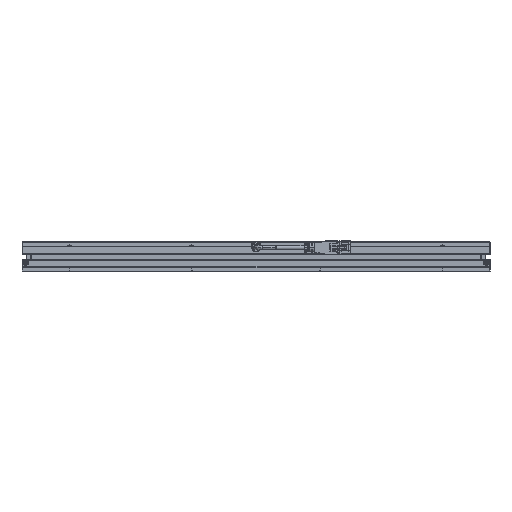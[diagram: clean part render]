
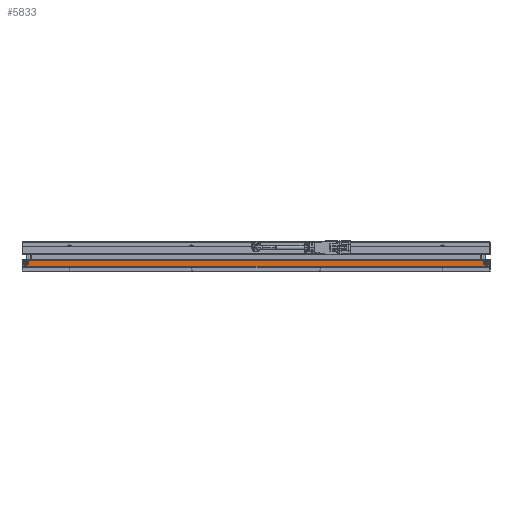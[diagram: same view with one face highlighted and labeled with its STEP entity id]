
A CAD part, left-side view. The second image highlights one B-rep face of the part: STEP entity #5833.
In plain terms, the highlighted planar face has unit normal (-1, 0, 0).
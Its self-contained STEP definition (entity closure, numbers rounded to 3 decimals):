
#37 = CIRCLE ( 'NONE', #12097, 2. ) ;
#192 = EDGE_CURVE ( 'NONE', #12142, #10848, #9920, .T. ) ;
#260 = DIRECTION ( 'NONE',  ( 0., 0., -1. ) ) ;
#303 = CARTESIAN_POINT ( 'NONE',  ( -232., -179., -12.5 ) ) ;
#338 = VERTEX_POINT ( 'NONE', #11583 ) ;
#364 = ORIENTED_EDGE ( 'NONE', *, *, #10016, .T. ) ;
#600 = FACE_OUTER_BOUND ( 'NONE', #10705, .T. ) ;
#1046 = ORIENTED_EDGE ( 'NONE', *, *, #5665, .T. ) ;
#1049 = CARTESIAN_POINT ( 'NONE',  ( -232., 179., -12.5 ) ) ;
#1095 = AXIS2_PLACEMENT_3D ( 'NONE', #8514, #2444, #9521 ) ;
#1358 = CARTESIAN_POINT ( 'NONE',  ( -232., 181.5, -9.85 ) ) ;
#1411 = VERTEX_POINT ( 'NONE', #11609 ) ;
#1552 = PLANE ( 'NONE',  #1095 ) ;
#1563 = VERTEX_POINT ( 'NONE', #3728 ) ;
#1729 = FACE_BOUND ( 'NONE', #9115, .T. ) ;
#1892 = CARTESIAN_POINT ( 'NONE',  ( -232., 181.5, -15.5 ) ) ;
#1925 = DIRECTION ( 'NONE',  ( 1., 0., 0. ) ) ;
#2444 = DIRECTION ( 'NONE',  ( 1., 0., 0. ) ) ;
#2458 = EDGE_CURVE ( 'NONE', #338, #5699, #9737, .T. ) ;
#2587 = CARTESIAN_POINT ( 'NONE',  ( -232., 182., -15.5 ) ) ;
#2630 = EDGE_CURVE ( 'NONE', #1563, #8818, #12460, .T. ) ;
#2874 = CARTESIAN_POINT ( 'NONE',  ( -232., -181.5, 0. ) ) ;
#3200 = ORIENTED_EDGE ( 'NONE', *, *, #3304, .T. ) ;
#3304 = EDGE_CURVE ( 'NONE', #10848, #8818, #5298, .T. ) ;
#3465 = CARTESIAN_POINT ( 'NONE',  ( -232., 182., -9.85 ) ) ;
#3615 = FACE_BOUND ( 'NONE', #11131, .T. ) ;
#3728 = CARTESIAN_POINT ( 'NONE',  ( -232., -181.5, -9.85 ) ) ;
#4198 = CARTESIAN_POINT ( 'NONE',  ( -232., -181.5, -15.5 ) ) ;
#4264 = CARTESIAN_POINT ( 'NONE',  ( -232., -179., -10.5 ) ) ;
#4529 = DIRECTION ( 'NONE',  ( 1., 0., 0. ) ) ;
#4594 = ORIENTED_EDGE ( 'NONE', *, *, #7394, .T. ) ;
#4659 = DIRECTION ( 'NONE',  ( 0., 0., -1. ) ) ;
#4718 = ORIENTED_EDGE ( 'NONE', *, *, #192, .T. ) ;
#5070 = DIRECTION ( 'NONE',  ( 0., 0., -1. ) ) ;
#5298 = LINE ( 'NONE', #2587, #7845 ) ;
#5547 = DIRECTION ( 'NONE',  ( 1., 0., 0. ) ) ;
#5665 = EDGE_CURVE ( 'NONE', #5699, #338, #8405, .T. ) ;
#5699 = VERTEX_POINT ( 'NONE', #4264 ) ;
#5833 = ADVANCED_FACE ( 'NONE', ( #3615, #1729, #600 ), #1552, .F. ) ;
#5871 = AXIS2_PLACEMENT_3D ( 'NONE', #1049, #1925, #5070 ) ;
#6667 = CARTESIAN_POINT ( 'NONE',  ( -232., 179., -12.5 ) ) ;
#6675 = DIRECTION ( 'NONE',  ( 0., -1., 0. ) ) ;
#6818 = DIRECTION ( 'NONE',  ( 0., 0., -1. ) ) ;
#6845 = DIRECTION ( 'NONE',  ( 0., -1., 0. ) ) ;
#7222 = VECTOR ( 'NONE', #6818, 1000. ) ;
#7255 = ORIENTED_EDGE ( 'NONE', *, *, #7701, .F. ) ;
#7394 = EDGE_CURVE ( 'NONE', #1411, #9843, #8045, .T. ) ;
#7411 = LINE ( 'NONE', #3465, #9941 ) ;
#7596 = DIRECTION ( 'NONE',  ( 0., 0., -1. ) ) ;
#7701 = EDGE_CURVE ( 'NONE', #12142, #1563, #7411, .T. ) ;
#7845 = VECTOR ( 'NONE', #6675, 1000. ) ;
#8045 = CIRCLE ( 'NONE', #5871, 2. ) ;
#8343 = DIRECTION ( 'NONE',  ( 1., 0., 0. ) ) ;
#8405 = CIRCLE ( 'NONE', #9935, 2. ) ;
#8514 = CARTESIAN_POINT ( 'NONE',  ( -232., 182., -15.5 ) ) ;
#8818 = VERTEX_POINT ( 'NONE', #4198 ) ;
#8999 = DIRECTION ( 'NONE',  ( 0., 0., -1. ) ) ;
#9115 = EDGE_LOOP ( 'NONE', ( #11714, #1046 ) ) ;
#9265 = VECTOR ( 'NONE', #8999, 1000. ) ;
#9521 = DIRECTION ( 'NONE',  ( 0., 0., 1. ) ) ;
#9553 = AXIS2_PLACEMENT_3D ( 'NONE', #11652, #5547, #7596 ) ;
#9737 = CIRCLE ( 'NONE', #9553, 2. ) ;
#9843 = VERTEX_POINT ( 'NONE', #12416 ) ;
#9920 = LINE ( 'NONE', #10921, #7222 ) ;
#9935 = AXIS2_PLACEMENT_3D ( 'NONE', #303, #8343, #260 ) ;
#9941 = VECTOR ( 'NONE', #6845, 1000. ) ;
#10016 = EDGE_CURVE ( 'NONE', #9843, #1411, #37, .T. ) ;
#10705 = EDGE_LOOP ( 'NONE', ( #7255, #4718, #3200, #12418 ) ) ;
#10848 = VERTEX_POINT ( 'NONE', #1892 ) ;
#10921 = CARTESIAN_POINT ( 'NONE',  ( -232., 181.5, 0. ) ) ;
#11131 = EDGE_LOOP ( 'NONE', ( #4594, #364 ) ) ;
#11583 = CARTESIAN_POINT ( 'NONE',  ( -232., -179., -14.5 ) ) ;
#11609 = CARTESIAN_POINT ( 'NONE',  ( -232., 179., -14.5 ) ) ;
#11652 = CARTESIAN_POINT ( 'NONE',  ( -232., -179., -12.5 ) ) ;
#11714 = ORIENTED_EDGE ( 'NONE', *, *, #2458, .T. ) ;
#12097 = AXIS2_PLACEMENT_3D ( 'NONE', #6667, #4529, #4659 ) ;
#12142 = VERTEX_POINT ( 'NONE', #1358 ) ;
#12416 = CARTESIAN_POINT ( 'NONE',  ( -232., 179., -10.5 ) ) ;
#12418 = ORIENTED_EDGE ( 'NONE', *, *, #2630, .F. ) ;
#12460 = LINE ( 'NONE', #2874, #9265 ) ;
